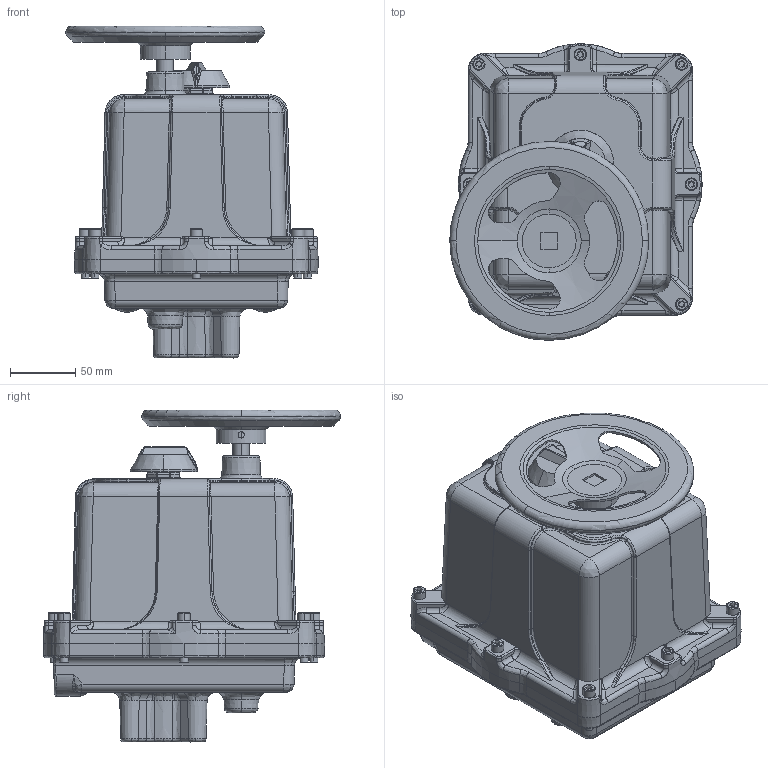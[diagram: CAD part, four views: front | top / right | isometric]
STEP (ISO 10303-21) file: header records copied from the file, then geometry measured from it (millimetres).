
FILE_DESCRIPTION (( 'STEP AP214' ), '1' );
FILE_NAME ('VCD00076.STEP', '2023-02-15T14:47:16', ( '' ), ( '' ), 'SwSTEP 2.0', 'SolidWorks 2020', '' );
FILE_SCHEMA (( 'AUTOMOTIVE_DESIGN' ));
Length unit declared in the file: inch
Products named in the file (2): VCD00076
Assembly tree (1 placements, depth 2):
  VCD00076
    VCD00076
Bounding box: 193.46 x 227.67 x 254.39 mm (x, y, z)
Volume: 1368744.5 mm3; surface area: 373389.3 mm2
Topology: 1 solids, 1 shells, 1871 faces, 4827 edges, 2897 vertices
Faces by surface type: plane 677, bspline 523, cylinder 455, cone 210, torus 6
Entity records: 86679 total; most frequent: CARTESIAN_POINT 45503, ORIENTED_EDGE 9492, DIRECTION 7508, EDGE_CURVE 4746, VERTEX_POINT 2897, AXIS2_PLACEMENT_3D 2713, LINE 2082, VECTOR 2082
